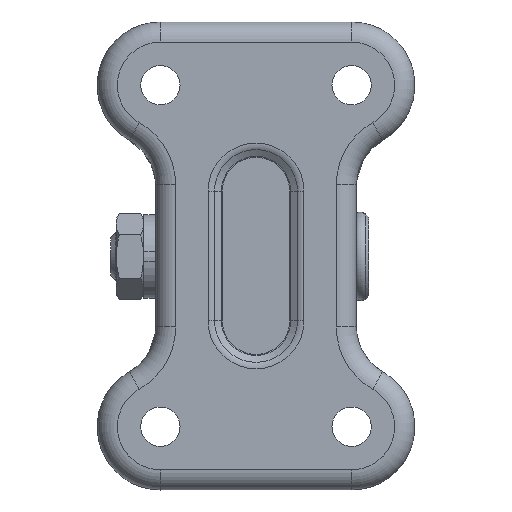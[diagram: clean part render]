
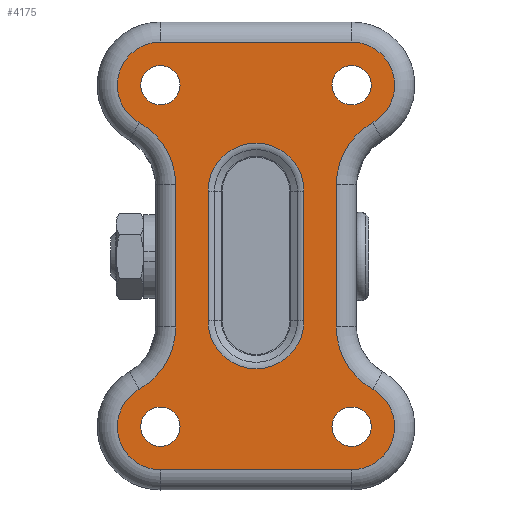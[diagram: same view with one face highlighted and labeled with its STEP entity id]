
A CAD part, top view. The second image highlights one B-rep face of the part: STEP entity #4175.
In plain terms, the highlighted planar face has unit normal (0, 0, 1).
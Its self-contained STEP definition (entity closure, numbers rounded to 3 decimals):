
#1775=CARTESIAN_POINT('',(634.484,-55.75,427.576));
#1776=VERTEX_POINT('',#1775);
#1777=CARTESIAN_POINT('',(634.484,-50.0,427.576));
#1778=DIRECTION('',(0.0,0.0,-1.0));
#1779=DIRECTION('',(0.0,1.0,0.0));
#1780=AXIS2_PLACEMENT_3D('',#1777,#1778,#1779);
#1781=CIRCLE('',#1780,5.75);
#1782=EDGE_CURVE('',#1776,#1776,#1781,.T.);
#1803=CARTESIAN_POINT('',(634.484,44.25,427.576));
#1804=VERTEX_POINT('',#1803);
#1805=CARTESIAN_POINT('',(634.484,50.0,427.576));
#1806=DIRECTION('',(0.0,0.0,-1.0));
#1807=DIRECTION('',(0.0,1.0,0.0));
#1808=AXIS2_PLACEMENT_3D('',#1805,#1806,#1807);
#1809=CIRCLE('',#1808,5.75);
#1810=EDGE_CURVE('',#1804,#1804,#1809,.T.);
#1831=CARTESIAN_POINT('',(578.484,44.25,427.576));
#1832=VERTEX_POINT('',#1831);
#1833=CARTESIAN_POINT('',(578.484,50.,427.576));
#1834=DIRECTION('',(0.0,0.0,-1.0));
#1835=DIRECTION('',(0.0,1.0,0.0));
#1836=AXIS2_PLACEMENT_3D('',#1833,#1834,#1835);
#1837=CIRCLE('',#1836,5.75);
#1838=EDGE_CURVE('',#1832,#1832,#1837,.T.);
#1859=CARTESIAN_POINT('',(578.484,-55.75,427.576));
#1860=VERTEX_POINT('',#1859);
#1861=CARTESIAN_POINT('',(578.484,-50.0,427.576));
#1862=DIRECTION('',(0.0,0.0,-1.0));
#1863=DIRECTION('',(0.0,1.0,0.0));
#1864=AXIS2_PLACEMENT_3D('',#1861,#1862,#1863);
#1865=CIRCLE('',#1864,5.75);
#1866=EDGE_CURVE('',#1860,#1860,#1865,.T.);
#3597=CARTESIAN_POINT('',(572.316,-39.013,427.576));
#3598=VERTEX_POINT('',#3597);
#3617=CARTESIAN_POINT('',(578.484,-62.6,427.576));
#3618=VERTEX_POINT('',#3617);
#3626=CARTESIAN_POINT('',(578.484,-50.0,427.576));
#3627=DIRECTION('',(0.0,0.0,-1.));
#3628=DIRECTION('',(-0.967,-0.253,0.0));
#3629=AXIS2_PLACEMENT_3D('',#3626,#3627,#3628);
#3630=CIRCLE('',#3629,12.6);
#3631=EDGE_CURVE('',#3618,#3598,#3630,.T.);
#3643=CARTESIAN_POINT('',(634.485,-62.6,427.576));
#3644=VERTEX_POINT('',#3643);
#3652=CARTESIAN_POINT('',(634.485,-62.6,427.576));
#3653=DIRECTION('',(-1.0,0.,0.0));
#3654=VECTOR('',#3653,56.001);
#3655=LINE('',#3652,#3654);
#3656=EDGE_CURVE('',#3644,#3618,#3655,.T.);
#3675=CARTESIAN_POINT('',(640.653,-39.013,427.576));
#3676=VERTEX_POINT('',#3675);
#3684=CARTESIAN_POINT('',(634.484,-50.0,427.576));
#3685=DIRECTION('',(0.0,0.0,-1.0));
#3686=DIRECTION('',(0.967,-0.253,0.0));
#3687=AXIS2_PLACEMENT_3D('',#3684,#3685,#3686);
#3688=CIRCLE('',#3687,12.6);
#3689=EDGE_CURVE('',#3676,#3644,#3688,.T.);
#3707=CARTESIAN_POINT('',(629.984,-20.789,427.576));
#3708=VERTEX_POINT('',#3707);
#3716=CARTESIAN_POINT('',(650.884,-20.789,427.576));
#3717=DIRECTION('',(0.0,0.0,1.0));
#3718=DIRECTION('',(-0.863,-0.505,0.0));
#3719=AXIS2_PLACEMENT_3D('',#3716,#3717,#3718);
#3720=CIRCLE('',#3719,20.9);
#3721=EDGE_CURVE('',#3708,#3676,#3720,.T.);
#3739=CARTESIAN_POINT('',(629.984,20.789,427.576));
#3740=VERTEX_POINT('',#3739);
#3748=CARTESIAN_POINT('',(629.984,20.789,427.576));
#3749=DIRECTION('',(0.0,-1.0,0.0));
#3750=VECTOR('',#3749,41.578);
#3751=LINE('',#3748,#3750);
#3752=EDGE_CURVE('',#3740,#3708,#3751,.T.);
#3766=CARTESIAN_POINT('',(640.653,39.013,427.576));
#3767=VERTEX_POINT('',#3766);
#3775=CARTESIAN_POINT('',(650.884,20.789,427.576));
#3776=DIRECTION('',(0.0,0.0,1.0));
#3777=DIRECTION('',(-0.863,0.505,0.0));
#3778=AXIS2_PLACEMENT_3D('',#3775,#3776,#3777);
#3779=CIRCLE('',#3778,20.9);
#3780=EDGE_CURVE('',#3767,#3740,#3779,.T.);
#3800=CARTESIAN_POINT('',(634.484,62.6,427.576));
#3801=VERTEX_POINT('',#3800);
#3809=CARTESIAN_POINT('',(634.484,50.0,427.576));
#3810=DIRECTION('',(0.0,0.0,-1.));
#3811=DIRECTION('',(0.967,0.253,0.0));
#3812=AXIS2_PLACEMENT_3D('',#3809,#3810,#3811);
#3813=CIRCLE('',#3812,12.6);
#3814=EDGE_CURVE('',#3801,#3767,#3813,.T.);
#3834=CARTESIAN_POINT('',(578.484,62.6,427.576));
#3835=VERTEX_POINT('',#3834);
#3843=CARTESIAN_POINT('',(578.484,62.6,427.576));
#3844=DIRECTION('',(1.0,0.,0.0));
#3845=VECTOR('',#3844,56.001);
#3846=LINE('',#3843,#3845);
#3847=EDGE_CURVE('',#3835,#3801,#3846,.T.);
#3866=CARTESIAN_POINT('',(572.316,39.013,427.576));
#3867=VERTEX_POINT('',#3866);
#3875=CARTESIAN_POINT('',(578.484,50.,427.576));
#3876=DIRECTION('',(0.0,0.0,-1.));
#3877=DIRECTION('',(-0.967,0.253,0.0));
#3878=AXIS2_PLACEMENT_3D('',#3875,#3876,#3877);
#3879=CIRCLE('',#3878,12.6);
#3880=EDGE_CURVE('',#3867,#3835,#3879,.T.);
#3900=CARTESIAN_POINT('',(582.984,20.789,427.576));
#3901=VERTEX_POINT('',#3900);
#3909=CARTESIAN_POINT('',(562.084,20.789,427.576));
#3910=DIRECTION('',(0.0,0.0,1.0));
#3911=DIRECTION('',(0.863,0.505,0.0));
#3912=AXIS2_PLACEMENT_3D('',#3909,#3910,#3911);
#3913=CIRCLE('',#3912,20.9);
#3914=EDGE_CURVE('',#3901,#3867,#3913,.T.);
#3934=CARTESIAN_POINT('',(582.984,-20.789,427.576));
#3935=VERTEX_POINT('',#3934);
#3943=CARTESIAN_POINT('',(582.984,-20.789,427.576));
#3944=DIRECTION('',(0.0,1.0,0.0));
#3945=VECTOR('',#3944,41.578);
#3946=LINE('',#3943,#3945);
#3947=EDGE_CURVE('',#3935,#3901,#3946,.T.);
#3965=CARTESIAN_POINT('',(562.084,-20.789,427.576));
#3966=DIRECTION('',(0.0,0.0,1.0));
#3967=DIRECTION('',(0.863,-0.505,0.0));
#3968=AXIS2_PLACEMENT_3D('',#3965,#3966,#3967);
#3969=CIRCLE('',#3968,20.9);
#3970=EDGE_CURVE('',#3598,#3935,#3969,.T.);
#4108=CARTESIAN_POINT('',(606.484,0.,427.576));
#4109=DIRECTION('',(0.0,0.0,1.0));
#4110=DIRECTION('',(1.0,0.0,0.0));
#4111=AXIS2_PLACEMENT_3D('',#4108,#4109,#4110);
#4112=PLANE('',#4111);
#4113=ORIENTED_EDGE('',*,*,#3631,.F.);
#4114=ORIENTED_EDGE('',*,*,#3656,.F.);
#4115=ORIENTED_EDGE('',*,*,#3689,.F.);
#4116=ORIENTED_EDGE('',*,*,#3721,.F.);
#4117=ORIENTED_EDGE('',*,*,#3752,.F.);
#4118=ORIENTED_EDGE('',*,*,#3780,.F.);
#4119=ORIENTED_EDGE('',*,*,#3814,.F.);
#4120=ORIENTED_EDGE('',*,*,#3847,.F.);
#4121=ORIENTED_EDGE('',*,*,#3880,.F.);
#4122=ORIENTED_EDGE('',*,*,#3914,.F.);
#4123=ORIENTED_EDGE('',*,*,#3947,.F.);
#4124=ORIENTED_EDGE('',*,*,#3970,.F.);
#4125=EDGE_LOOP('',(#4113,#4114,#4115,#4116,#4117,#4118,#4119,#4120,#4121,#4122,#4123,#4124));
#4126=FACE_OUTER_BOUND('',#4125,.T.);
#4127=ORIENTED_EDGE('',*,*,#1810,.T.);
#4128=EDGE_LOOP('',(#4127));
#4129=FACE_BOUND('',#4128,.T.);
#4130=ORIENTED_EDGE('',*,*,#1838,.T.);
#4131=EDGE_LOOP('',(#4130));
#4132=FACE_BOUND('',#4131,.T.);
#4133=ORIENTED_EDGE('',*,*,#1866,.T.);
#4134=EDGE_LOOP('',(#4133));
#4135=FACE_BOUND('',#4134,.T.);
#4136=CARTESIAN_POINT('',(592.455,19.,427.576));
#4137=VERTEX_POINT('',#4136);
#4138=CARTESIAN_POINT('',(592.455,-19.,427.576));
#4139=VERTEX_POINT('',#4138);
#4140=CARTESIAN_POINT('',(592.455,19.,427.576));
#4141=DIRECTION('',(0.0,-1.0,0.0));
#4142=VECTOR('',#4141,38.);
#4143=LINE('',#4140,#4142);
#4144=EDGE_CURVE('',#4137,#4139,#4143,.T.);
#4145=ORIENTED_EDGE('',*,*,#4144,.F.);
#4146=CARTESIAN_POINT('',(620.514,19.,427.576));
#4147=VERTEX_POINT('',#4146);
#4148=CARTESIAN_POINT('',(606.484,19.,427.576));
#4149=DIRECTION('',(0.0,0.0,1.0));
#4150=DIRECTION('',(0.0,1.0,0.0));
#4151=AXIS2_PLACEMENT_3D('',#4148,#4149,#4150);
#4152=CIRCLE('',#4151,14.029);
#4153=EDGE_CURVE('',#4147,#4137,#4152,.T.);
#4154=ORIENTED_EDGE('',*,*,#4153,.F.);
#4155=CARTESIAN_POINT('',(620.514,-19.,427.576));
#4156=VERTEX_POINT('',#4155);
#4157=CARTESIAN_POINT('',(620.514,-19.,427.576));
#4158=DIRECTION('',(0.0,1.0,0.0));
#4159=VECTOR('',#4158,38.);
#4160=LINE('',#4157,#4159);
#4161=EDGE_CURVE('',#4156,#4147,#4160,.T.);
#4162=ORIENTED_EDGE('',*,*,#4161,.F.);
#4163=CARTESIAN_POINT('',(606.484,-19.,427.576));
#4164=DIRECTION('',(0.0,0.0,1.0));
#4165=DIRECTION('',(0.0,-1.0,0.0));
#4166=AXIS2_PLACEMENT_3D('',#4163,#4164,#4165);
#4167=CIRCLE('',#4166,14.029);
#4168=EDGE_CURVE('',#4139,#4156,#4167,.T.);
#4169=ORIENTED_EDGE('',*,*,#4168,.F.);
#4170=EDGE_LOOP('',(#4145,#4154,#4162,#4169));
#4171=FACE_BOUND('',#4170,.T.);
#4172=ORIENTED_EDGE('',*,*,#1782,.T.);
#4173=EDGE_LOOP('',(#4172));
#4174=FACE_BOUND('',#4173,.T.);
#4175=ADVANCED_FACE('',(#4126,#4129,#4132,#4135,#4171,#4174),#4112,.T.);
